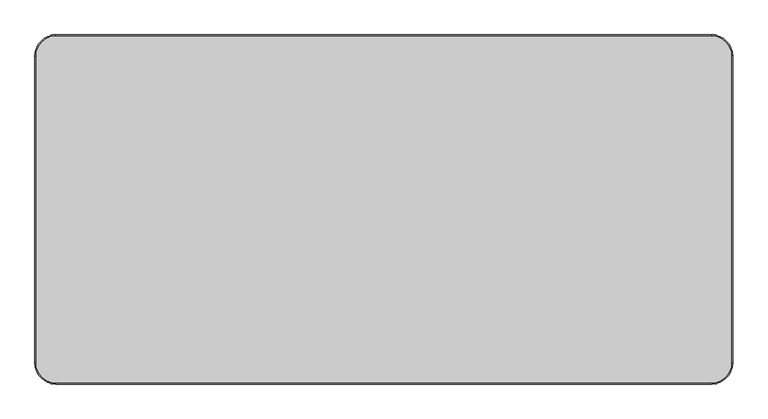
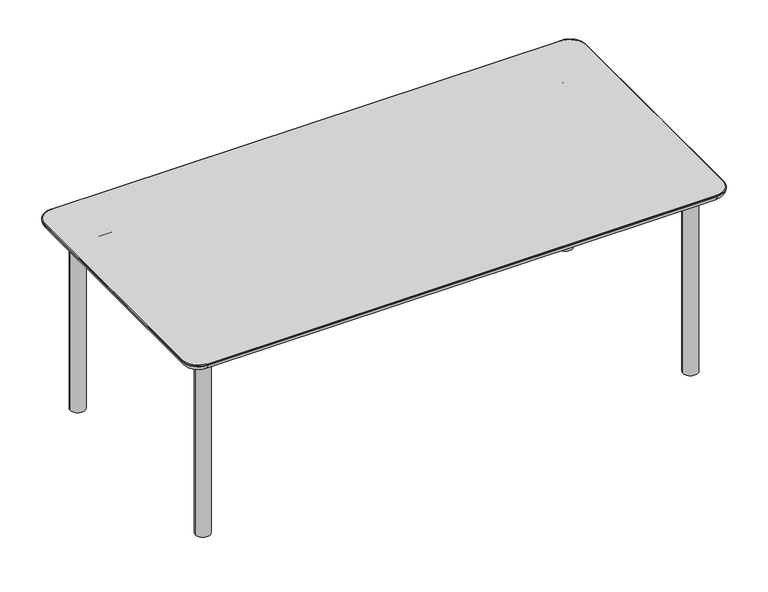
"""IFC4 building model written with IfcOpenShell, lengths in millimetres: furniture geometry, Fredericia - Plan Wood Table - 6681 : Fredericia - Plan Wood Table - 6681."""

import ifcopenshell
import ifcopenshell.guid

model = None  # the IFC model being written
_history = None  # IfcOwnerHistory: only IFC2X3 demands one
_inside = {}  # id of a spatial element -> (the spatial element, [elements in it])
_under = {}  # id of a project, library or spatial element -> (it, [spatial elements below it])
_declared = {}  # id of a project -> (the project, [libraries it declares])
_typed = {}  # id of a type object -> (the type object, [elements of that type])
_made_of = {}  # id of a material, layer set ... -> (it, [elements and type objects made of it])


def new_model(schema):
    """Start an empty IFC model of exactly this schema.

    Asked for "IFC4X3", IfcOpenShell would pick the latest addendum, in which some entities
    have other attributes; the version numbers below select the first issue.
    IFC2X3 requires an IfcOwnerHistory on every rooted entity: one is made here for all.
    """
    global model, _history
    if schema == "IFC4X3":
        model = ifcopenshell.file(schema_version=(4, 3, 0, 0))
    else:
        model = ifcopenshell.file(schema=schema)
    _inside.clear()
    _under.clear()
    _declared.clear()
    _typed.clear()
    _made_of.clear()
    _history = None
    if model.schema == "IFC2X3":
        org = make("IfcOrganization", Name="unknown")
        user = make(
            "IfcPersonAndOrganization",
            ThePerson=make("IfcPerson", FamilyName="unknown"),
            TheOrganization=org,
        )
        app = make(
            "IfcApplication",
            ApplicationDeveloper=org,
            Version="unknown",
            ApplicationFullName="unknown",
            ApplicationIdentifier="unknown",
        )
        _history = make(
            "IfcOwnerHistory",
            OwningUser=user,
            OwningApplication=app,
            ChangeAction="ADDED",
            CreationDate=0,
        )
    return model


def make(cls, **values):
    """One entity of the class cls with the attributes given. An attribute that is None is left unset."""
    return model.create_entity(
        cls, **{name: value for name, value in values.items() if value is not None}
    )


def rooted(cls, **values):
    """An entity with a GlobalId (a new one), such as an element, a storey or a relation."""
    return make(cls, GlobalId=ifcopenshell.guid.new(), OwnerHistory=_history, **values)


def si_unit(unit_type, name, prefix=None):
    """IfcSIUnit, for example si_unit("LENGTHUNIT", "METRE", prefix="MILLI")."""
    return make("IfcSIUnit", UnitType=unit_type, Prefix=prefix, Name=name)


def assignment(units):
    """IfcUnitAssignment: the units of a project."""
    return None if units is None else make("IfcUnitAssignment", Units=units)


def point(xyz):
    """IfcCartesianPoint."""
    return None if xyz is None else make("IfcCartesianPoint", Coordinates=xyz)


def direction(xyz):
    """IfcDirection."""
    return None if xyz is None else make("IfcDirection", DirectionRatios=xyz)


def frame(location, z_axis=None, x_axis=None):
    """IfcAxis2Placement3D, a coordinate frame: its origin and axes. An axis left out is left unset."""
    return make(
        "IfcAxis2Placement3D",
        Location=point(location),
        Axis=direction(z_axis),
        RefDirection=direction(x_axis),
    )


def frame_2d(location, x_axis=None):
    """IfcAxis2Placement2D, a coordinate frame in the plane: its origin and x axis."""
    return make(
        "IfcAxis2Placement2D", Location=point(location), RefDirection=direction(x_axis)
    )


def origin():
    """The frame at (0, 0, 0) with its axes left unset."""
    return frame((0.0, 0.0, 0.0))


def origin_with_axes():
    """The frame at (0, 0, 0) with the z axis (0, 0, 1) and the x axis (1, 0, 0) written out."""
    return frame((0.0, 0.0, 0.0), z_axis=(0.0, 0.0, 1.0), x_axis=(1.0, 0.0, 0.0))


def place(relative_to, where):
    """IfcLocalPlacement: puts the frame where relative to a parent placement (None: the world)."""
    return make(
        "IfcLocalPlacement", PlacementRelTo=relative_to, RelativePlacement=where
    )


def context(
    kind, dimensions, precision=None, world=None, true_north=None, identifier=None
):
    """IfcGeometricRepresentationContext, for example the 3D "Model" context."""
    return make(
        "IfcGeometricRepresentationContext",
        ContextIdentifier=identifier,
        ContextType=kind,
        CoordinateSpaceDimension=dimensions,
        Precision=precision,
        WorldCoordinateSystem=world,
        TrueNorth=true_north,
    )


def project(units=None, contexts=None):
    """IfcProject with its units and contexts."""
    return rooted(
        "IfcProject",
        Name="project",
        RepresentationContexts=contexts,
        UnitsInContext=assignment(units),
    )


def spatial(cls, under=None, at=None, **own):
    """A site, building, storey or space (cls), placed at a placement, below another one or the project."""
    s = rooted(cls, ObjectPlacement=at, **own)
    if under is not None:
        _under.setdefault(under.id(), (under, []))[1].append(s)
    return s


def polyline(points):
    """IfcPolyline through the points."""
    return make("IfcPolyline", Points=[point(p) for p in points])


def circle_curve(where, radius):
    """IfcCircle in the frame where."""
    return make("IfcCircle", Position=where, Radius=radius)


def ellipse_curve(where, semi_axis1, semi_axis2):
    """IfcEllipse in the frame where."""
    return make(
        "IfcEllipse", Position=where, SemiAxis1=semi_axis1, SemiAxis2=semi_axis2
    )


def trimmed(basis, trim1, trim2, sense, master):
    """IfcTrimmedCurve: the piece of a basis curve between two trims."""
    return make(
        "IfcTrimmedCurve",
        BasisCurve=basis,
        Trim1=trim1,
        Trim2=trim2,
        SenseAgreement=sense,
        MasterRepresentation=master,
    )


def segment(curve, same_sense, transition):
    """IfcCompositeCurveSegment."""
    return make(
        "IfcCompositeCurveSegment",
        Transition=transition,
        SameSense=same_sense,
        ParentCurve=curve,
    )


def composite_curve(segments, self_intersect=None):
    """IfcCompositeCurve: segments joined end to end."""
    return make("IfcCompositeCurve", Segments=segments, SelfIntersect=self_intersect)


def outline(outer, holes=None, kind="AREA"):
    """IfcArbitraryClosedProfileDef: a profile drawn as a closed curve; with holes, ...WithVoids."""
    if holes is None:
        return make("IfcArbitraryClosedProfileDef", ProfileType=kind, OuterCurve=outer)
    return make(
        "IfcArbitraryProfileDefWithVoids",
        ProfileType=kind,
        OuterCurve=outer,
        InnerCurves=holes,
    )


def extrude(swept, where, along, depth):
    """IfcExtrudedAreaSolid: the profile swept, set in the frame where, extruded along a direction by depth."""
    return make(
        "IfcExtrudedAreaSolid",
        SweptArea=swept,
        Position=where,
        ExtrudedDirection=direction(along),
        Depth=depth,
    )


def shape(context_of_items, identifier, shape_type, items):
    """IfcShapeRepresentation: the items that make up one representation, for example the "Body"."""
    return make(
        "IfcShapeRepresentation",
        ContextOfItems=context_of_items,
        RepresentationIdentifier=identifier,
        RepresentationType=shape_type,
        Items=items,
    )


def source(mapping_origin, context_of_items, identifier, shape_type, items):
    """IfcRepresentationMap: a shape defined once, which mapped items show again and again."""
    return make(
        "IfcRepresentationMap",
        MappingOrigin=mapping_origin,
        MappedRepresentation=shape(context_of_items, identifier, shape_type, items),
    )


def transform(
    local_origin,
    x_axis=None,
    y_axis=None,
    z_axis=None,
    scale=None,
    scale2=None,
    scale3=None,
    uniform=True,
):
    """IfcCartesianTransformationOperator3D, or its non-uniform kind. x_axis, y_axis, z_axis: its Axis1, 2, 3."""
    if uniform:
        return make(
            "IfcCartesianTransformationOperator3D",
            Axis1=direction(x_axis),
            Axis2=direction(y_axis),
            LocalOrigin=point(local_origin),
            Scale=scale,
            Axis3=direction(z_axis),
        )
    return make(
        "IfcCartesianTransformationOperator3DnonUniform",
        Axis1=direction(x_axis),
        Axis2=direction(y_axis),
        LocalOrigin=point(local_origin),
        Scale=scale,
        Axis3=direction(z_axis),
        Scale2=scale2,
        Scale3=scale3,
    )


def mapped(mapping_source, mapping_target):
    """IfcMappedItem: shows the shape of a source again, moved by a transform."""
    return make(
        "IfcMappedItem", MappingSource=mapping_source, MappingTarget=mapping_target
    )


def made_of(thing, what):
    """Note that an element or type object is made of a material, layer set ...; save() writes the relation."""
    if what is not None:
        _made_of.setdefault(what.id(), (what, []))[1].append(thing)
    return thing


def element(
    cls,
    number,
    at=None,
    inside=None,
    cuts=None,
    type_object=None,
    material=None,
    context=None,
    identifier="Body",
    shape_type=None,
    held_by="IfcProductDefinitionShape",
    body=None,
    shapes=None,
    **own,
):
    """One element of the class cls, such as IfcWall. Its Tag is "e" and its number.

    at: its placement. inside: the storey or other place that contains it. cuts: it is an
    opening in that element (IfcRelVoidsElement). A single representation is given by context,
    identifier, shape_type and body (its items); several are given by shapes. held_by: the class
    of the entity that holds the representations. save() writes the other relations.
    """
    e = rooted(cls, Tag="e%d" % number, ObjectPlacement=at, **own)
    if body is not None:
        shapes = [shape(context, identifier, shape_type, body)]
    if shapes is not None:
        e.Representation = make(held_by, Representations=shapes)
    if inside is not None:
        _inside.setdefault(inside.id(), (inside, []))[1].append(e)
    if cuts is not None:
        rooted(
            "IfcRelVoidsElement", RelatingBuildingElement=cuts, RelatedOpeningElement=e
        )
    if type_object is not None:
        _typed.setdefault(type_object.id(), (type_object, []))[1].append(e)
    return made_of(e, material)


def aggregate(whole, parts):
    """IfcRelAggregates: a whole, such as a stair, and the parts it consists of."""
    return rooted("IfcRelAggregates", RelatingObject=whole, RelatedObjects=parts)


def save(model, path):
    """Write the relations noted so far, then the file.

    IfcRelAggregates (storeys below a building ...), IfcRelContainedInSpatialStructure (elements
    in a storey), IfcRelDefinesByType, IfcRelAssociatesMaterial and IfcRelDeclares: one each for
    every whole, place, type object, material and project.
    """
    for whole, parts in _under.values():
        aggregate(whole, parts)
    for where, things in _inside.values():
        rooted(
            "IfcRelContainedInSpatialStructure",
            RelatedElements=things,
            RelatingStructure=where,
        )
    for kind, things in _typed.values():
        rooted("IfcRelDefinesByType", RelatedObjects=things, RelatingType=kind)
    for what, things in _made_of.values():
        rooted("IfcRelAssociatesMaterial", RelatedObjects=things, RelatingMaterial=what)
    for by, libraries in _declared.values():
        rooted("IfcRelDeclares", RelatingContext=by, RelatedDefinitions=libraries)
    model.write(path)


def plane_surface(at):
    """IfcPlane: the flat surface through the origin of the frame at, square to its z axis."""
    return make("IfcPlane", Position=at)


def cylinder_surface(at, radius):
    """IfcCylindricalSurface: all points at the distance radius from the z axis of the frame at."""
    return make("IfcCylindricalSurface", Position=at, Radius=radius)


def revolved_surface(curve, axis_point, axis_direction):
    """IfcSurfaceOfRevolution: the curve turned about the line through axis_point along axis_direction."""
    return make(
        "IfcSurfaceOfRevolution",
        SweptCurve=make("IfcArbitraryOpenProfileDef", ProfileType="CURVE", Curve=curve),
        AxisPosition=make("IfcAxis1Placement", Location=point(axis_point), Axis=direction(axis_direction)),
    )


def advanced_brep(points, edges, surfaces, faces):
    """IfcAdvancedBrep: a solid bounded by faces that lie on surfaces and meet in shared edges.

    An edge is (start, end): straight between two places in points (the first is 0);
    or (start, end, curve); or (start, end, curve, False) where it runs against its curve.
    A face is (place in surfaces, loops), or (place, loops, False) where it looks against
    its surface's normal. A loop lists edges by number (the first is 1), with a minus sign
    where the edge is run from its end to its start. The first loop is the outer one.
    """
    corners = [point(p) for p in points]
    vertices = [make("IfcVertexPoint", VertexGeometry=c) for c in corners]
    made = []
    for start, end, *more in edges:
        made.append(
            make(
                "IfcEdgeCurve",
                EdgeStart=vertices[start],
                EdgeEnd=vertices[end],
                EdgeGeometry=more[0] if more else make("IfcPolyline", Points=[corners[start], corners[end]]),
                SameSense=more[1] if len(more) > 1 else True,
            )
        )
    hull = []
    for where, loops, *sense in faces:
        bounds = []
        for j, loop in enumerate(loops):
            ring = [make("IfcOrientedEdge", EdgeElement=made[abs(k) - 1], Orientation=k > 0) for k in loop]
            bounds.append(
                make(
                    "IfcFaceOuterBound" if j == 0 else "IfcFaceBound",
                    Bound=make("IfcEdgeLoop", EdgeList=ring),
                    Orientation=True,
                )
            )
        hull.append(make("IfcAdvancedFace", Bounds=bounds, FaceSurface=surfaces[where], SameSense=sense[0] if sense else True))
    return make("IfcAdvancedBrep", Outer=make("IfcClosedShell", CfsFaces=hull))


def furniture_bf733eba(model_context):
    return source(origin(), model_context, "Body", "SolidModel", [
        advanced_brep(
        [(-912.5, -387.5, 662.0), (-900.5, -387.5, 650.0), (-889.5, -387.5, 650.0), (-887.5, -387.5, 652.0), (-887.5, -387.5, 710.0), (-912.5, -387.5, 710.0), (-912.5, 387.5, 662.0), (-912.5, 387.5, 710.0), (-887.5, 387.5, 710.0), (-887.5, 387.5, 652.0), (-889.5, 387.5, 650.0), (-900.5, 387.5, 650.0)],
        [
            (0, 1, circle_curve(frame((-900.5, -387.5, 662.0), z_axis=(0.0, -1.0, 0.0), x_axis=(-0.7071067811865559, 0.0, -0.7071067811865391)), 12.0)),
            (1, 2),
            (2, 3, circle_curve(frame((-889.5, -387.5, 652.0), z_axis=(0.0, -1.0, 0.0), x_axis=(0.7071067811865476, 0.0, -0.7071067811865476)), 2.0)),
            (3, 4),
            (4, 5),
            (5, 0),
            (6, 7),
            (7, 8),
            (8, 9),
            (9, 10, circle_curve(frame((-889.5, 387.5, 652.0), z_axis=(0.0, 1.0, 0.0), x_axis=(0.7071067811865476, 0.0, -0.7071067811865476)), 2.0)),
            (10, 11),
            (11, 6, circle_curve(frame((-900.5, 387.5, 662.0), z_axis=(0.0, 1.0, 0.0), x_axis=(-0.7071067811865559, 0.0, -0.7071067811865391)), 12.0)),
            (0, 6),
            (11, 1),
            (10, 2),
            (9, 3),
            (8, 4),
            (7, 5),
        ],
        [
            plane_surface(frame((-908.9852814, -387.5, 653.5147186), z_axis=(0.0, -1.0, 0.0), x_axis=(0.7071067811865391, 0.0, -0.7071067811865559))),
            plane_surface(frame((-908.9852814, 387.5, 653.5147186), z_axis=(0.0, 1.0, 0.0), x_axis=(-0.7071067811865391, 0.0, 0.7071067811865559))),
            cylinder_surface(frame((-900.5, 387.5, 662.0), z_axis=(0.0, -1.0, 0.0), x_axis=(-0.7071067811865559, 0.0, -0.7071067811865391)), 12.0),
            plane_surface(frame((-900.5, -387.5, 650.0), z_axis=(0.0, 0.0, -1.0), x_axis=(0.0, 1.0, 0.0))),
            cylinder_surface(frame((-889.5, 387.5, 652.0), z_axis=(0.0, -1.0000000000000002, 0.0), x_axis=(0.7071067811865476, 0.0, -0.7071067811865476)), 2.0),
            plane_surface(frame((-887.5, -387.5, 652.0), z_axis=(1.0, 0.0, 0.0), x_axis=(0.0, 1.0, 0.0))),
            plane_surface(frame((-887.5, -387.5, 710.0), z_axis=(0.0, 0.0, 1.0), x_axis=(0.0, 1.0, 0.0))),
            plane_surface(frame((-912.5, -387.5, 710.0), z_axis=(-1.0, 0.0, 0.0), x_axis=(0.0, 1.0, 0.0))),
        ],
        [
            (0, [[1, 2, 3, 4, 5, 6]]),
            (1, [[7, 8, 9, 10, 11, 12]]),
            (2, [[-1, 13, -12, 14]]),
            (3, [[-2, -14, -11, 15]]),
            (4, [[-3, -15, -10, 16]]),
            (5, [[-4, -16, -9, 17]]),
            (6, [[-5, -17, -8, 18]]),
            (7, [[-6, -18, -7, -13]]),
        ],
    ),
        advanced_brep(
        [(-405.0, -387.5, 655.0), (-403.0, -387.5, 653.0), (-382.0, -387.5, 653.0), (-380.0, -387.5, 655.0), (-380.0, -387.5, 710.0), (-405.0, -387.5, 710.0), (-405.0, 387.5, 655.0), (-405.0, 387.5, 710.0), (-380.0, 387.5, 710.0), (-380.0, 387.5, 655.0), (-382.0, 387.5, 653.0), (-403.0, 387.5, 653.0), (-380.0, 106.0, 710.0), (-380.0, 106.0, 704.0), (-380.0, 94.0, 704.0), (-380.0, 94.0, 710.0), (-380.0, -94.0, 710.0), (-380.0, -94.0, 704.0), (-380.0, -106.0, 704.0), (-380.0, -106.0, 710.0), (-405.0, -106.0, 710.0), (-405.0, 106.0, 710.0), (-405.0, 94.0, 710.0), (-405.0, -94.0, 710.0), (-405.0, -106.0, 704.0), (-405.0, -94.0, 704.0), (-405.0, 94.0, 704.0), (-405.0, 106.0, 704.0)],
        [
            (0, 1, circle_curve(frame((-403.0, -387.5, 655.0), z_axis=(0.0, -1.0, 0.0), x_axis=(-0.7071067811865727, 0.0, -0.7071067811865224)), 2.0)),
            (1, 2),
            (2, 3, circle_curve(frame((-382.0, -387.5, 655.0), z_axis=(0.0, -1.0, 0.0), x_axis=(0.7071067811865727, 0.0, -0.7071067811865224)), 2.0)),
            (3, 4),
            (4, 5),
            (5, 0),
            (6, 7),
            (7, 8),
            (8, 9),
            (9, 10, circle_curve(frame((-382.0, 387.5, 655.0), z_axis=(0.0, 1.0, 0.0), x_axis=(0.7071067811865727, 0.0, -0.7071067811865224)), 2.0)),
            (10, 11),
            (11, 6, circle_curve(frame((-403.0, 387.5, 655.0), z_axis=(0.0, 1.0, 0.0), x_axis=(-0.7071067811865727, 0.0, -0.7071067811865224)), 2.0)),
            (0, 6),
            (11, 1),
            (10, 2),
            (9, 3),
            (8, 12),
            (12, 13),
            (13, 14, circle_curve(frame((-380.0, 100.0, 704.0), z_axis=(-1.0, 0.0, 0.0), x_axis=(0.0, 0.0, -1.0)), 6.0)),
            (14, 15),
            (15, 16),
            (16, 17),
            (17, 18, circle_curve(frame((-380.0, -100.0, 704.0), z_axis=(-1.0, 0.0, 0.0), x_axis=(0.0, 0.0, -1.0)), 6.0)),
            (18, 19),
            (19, 4),
            (19, 20),
            (20, 5),
            (7, 21),
            (21, 12),
            (15, 22),
            (22, 23),
            (23, 16),
            (20, 24),
            (24, 25, circle_curve(frame((-405.0, -100.0, 704.0), z_axis=(1.0, 0.0, 0.0), x_axis=(0.0, 0.0, -1.0)), 6.0)),
            (25, 23),
            (22, 26),
            (26, 27, circle_curve(frame((-405.0, 100.0, 704.0), z_axis=(1.0, 0.0, 0.0), x_axis=(0.0, 0.0, -1.0)), 6.0)),
            (27, 21),
            (24, 18),
            (17, 25),
            (27, 13),
            (14, 26),
        ],
        [
            plane_surface(frame((-908.9852814, -387.5, 653.5147186), z_axis=(0.0, -1.0, 0.0), x_axis=(0.7071067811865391, 0.0, -0.7071067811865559))),
            plane_surface(frame((-908.9852814, 387.5, 653.5147186), z_axis=(0.0, 1.0, 0.0), x_axis=(-0.7071067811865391, 0.0, 0.7071067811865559))),
            cylinder_surface(frame((-403.0, 0.0, 655.0), z_axis=(0.0, -1.0, 0.0), x_axis=(-0.7071067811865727, 0.0, -0.7071067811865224)), 2.0),
            plane_surface(frame((-403.0, -387.5, 653.0), z_axis=(0.0, 0.0, -1.0), x_axis=(0.0, 1.0, 0.0))),
            cylinder_surface(frame((-382.0, 0.0, 655.0), z_axis=(0.0, -1.0, 0.0), x_axis=(0.7071067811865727, 0.0, -0.7071067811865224)), 2.0),
            plane_surface(frame((-380.0, -387.5, 655.0), z_axis=(1.0, 0.0, 0.0), x_axis=(0.0, 1.0, 0.0))),
            plane_surface(frame((-380.0, -387.5, 710.0), z_axis=(0.0, 0.0, 1.0), x_axis=(0.0, 1.0, 0.0))),
            plane_surface(frame((-405.0, -387.5, 710.0), z_axis=(-1.0, 0.0, 0.0), x_axis=(0.0, 1.0, 0.0))),
            revolved_surface(polyline([(-380.0, -100.0, 698.0), (-405.0, -100.0, 698.0)]), (-418.8703502, -100.0, 704.0), (1.0, 0.0, 0.0)),
            plane_surface(frame((532.5, -94.0, 704.0), z_axis=(0.0, -1.0, 0.0), x_axis=(-1.0, 0.0, 0.0))),
            plane_surface(frame((532.5, -106.0, 710.0), z_axis=(0.0, 1.0, 0.0), x_axis=(-1.0, 0.0, 0.0))),
            plane_surface(frame((532.5, 106.0, 704.0), z_axis=(0.0, -1.0, 0.0), x_axis=(-1.0, 0.0, 0.0))),
            plane_surface(frame((532.5, 94.0, 710.0), z_axis=(0.0, 1.0, 0.0), x_axis=(-1.0, 0.0, 0.0))),
            revolved_surface(polyline([(-380.0, 100.0, 698.0), (-405.0, 100.0, 698.0)]), (0.0, 100.0, 704.0), (1.0, 0.0, 0.0)),
        ],
        [
            (0, [[1, 2, 3, 4, 5, 6]]),
            (1, [[7, 8, 9, 10, 11, 12]]),
            (2, [[-1, 13, -12, 14]]),
            (3, [[-2, -14, -11, 15]]),
            (4, [[-3, -15, -10, 16]]),
            (5, [[-4, -16, -9, 17, 18, 19, 20, 21, 22, 23, 24, 25]]),
            (6, [[-5, -25, 26, 27]]),
            (6, [[-8, 28, 29, -17]]),
            (6, [[-21, 30, 31, 32]]),
            (7, [[-6, -27, 33, 34, 35, -31, 36, 37, 38, -28, -7, -13]]),
            (8, [[39, -23, 40, -34]]),
            (9, [[-40, -22, -32, -35]]),
            (10, [[-39, -33, -26, -24]]),
            (11, [[41, -18, -29, -38]]),
            (12, [[42, -36, -30, -20]]),
            (13, [[-41, -37, -42, -19]]),
        ],
    ),
        advanced_brep(
        [(912.5, -387.5, 662.0), (912.5, -387.5, 710.0), (887.5, -387.5, 710.0), (887.5, -387.5, 652.0), (889.5, -387.5, 650.0), (900.5, -387.5, 650.0), (912.5, 387.5, 662.0), (900.5, 387.5, 650.0), (889.5, 387.5, 650.0), (887.5, 387.5, 652.0), (887.5, 387.5, 710.0), (912.5, 387.5, 710.0)],
        [
            (0, 1),
            (1, 2),
            (2, 3),
            (3, 4, circle_curve(frame((889.5, -387.5, 652.0), z_axis=(0.0, -1.0, 0.0), x_axis=(-0.7071067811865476, 0.0, -0.7071067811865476)), 2.0)),
            (4, 5),
            (5, 0, circle_curve(frame((900.5, -387.5, 662.0), z_axis=(0.0, -1.0, 0.0), x_axis=(0.7071067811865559, 0.0, -0.7071067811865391)), 12.0)),
            (6, 7, circle_curve(frame((900.5, 387.5, 662.0), z_axis=(0.0, 1.0, 0.0), x_axis=(0.7071067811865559, 0.0, -0.7071067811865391)), 12.0)),
            (7, 8),
            (8, 9, circle_curve(frame((889.5, 387.5, 652.0), z_axis=(0.0, 1.0, 0.0), x_axis=(-0.7071067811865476, 0.0, -0.7071067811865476)), 2.0)),
            (9, 10),
            (10, 11),
            (11, 6),
            (0, 6),
            (11, 1),
            (10, 2),
            (9, 3),
            (8, 4),
            (7, 5),
        ],
        [
            plane_surface(frame((-908.9852814, -387.5, 653.5147186), z_axis=(0.0, -1.0, 0.0), x_axis=(0.7071067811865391, 0.0, -0.7071067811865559))),
            plane_surface(frame((-908.9852814, 387.5, 653.5147186), z_axis=(0.0, 1.0, 0.0), x_axis=(-0.7071067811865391, 0.0, 0.7071067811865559))),
            plane_surface(frame((912.5, -387.5, 662.0), z_axis=(1.0, 0.0, 0.0), x_axis=(0.0, 1.0, 0.0))),
            plane_surface(frame((912.5, -387.5, 710.0), z_axis=(0.0, 0.0, 1.0), x_axis=(0.0, 1.0, 0.0))),
            plane_surface(frame((887.5, -387.5, 710.0), z_axis=(-1.0, 0.0, 0.0), x_axis=(0.0, 1.0, 0.0))),
            cylinder_surface(frame((889.5, 0.0, 652.0), z_axis=(0.0, -1.0000000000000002, 0.0), x_axis=(-0.7071067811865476, 0.0, -0.7071067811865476)), 2.0),
            plane_surface(frame((889.5, -387.5, 650.0), z_axis=(0.0, 0.0, -1.0), x_axis=(0.0, 1.0, 0.0))),
            cylinder_surface(frame((900.5, 0.0, 662.0), z_axis=(0.0, -1.0, 0.0), x_axis=(0.7071067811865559, 0.0, -0.7071067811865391)), 12.0),
        ],
        [
            (0, [[1, 2, 3, 4, 5, 6]]),
            (1, [[7, 8, 9, 10, 11, 12]]),
            (2, [[-1, 13, -12, 14]]),
            (3, [[-2, -14, -11, 15]]),
            (4, [[-3, -15, -10, 16]]),
            (5, [[-4, -16, -9, 17]]),
            (6, [[-5, -17, -8, 18]]),
            (7, [[-6, -18, -7, -13]]),
        ],
    ),
        advanced_brep(
        [(405.0, -387.5, 655.0), (405.0, -387.5, 710.0), (380.0, -387.5, 710.0), (380.0, -387.5, 655.0), (382.0, -387.5, 653.0), (403.0, -387.5, 653.0), (405.0, 387.5, 655.0), (403.0, 387.5, 653.0), (382.0, 387.5, 653.0), (380.0, 387.5, 655.0), (380.0, 387.5, 710.0), (405.0, 387.5, 710.0), (405.0, 106.0, 710.0), (405.0, 106.0, 704.0), (405.0, 94.0, 704.0), (405.0, 94.0, 710.0), (405.0, -94.0, 710.0), (405.0, -94.0, 704.0), (405.0, -106.0, 704.0), (405.0, -106.0, 710.0), (380.0, -106.0, 710.0), (380.0, 106.0, 710.0), (380.0, 94.0, 710.0), (380.0, -94.0, 710.0), (380.0, -106.0, 704.0), (380.0, -94.0, 704.0), (380.0, 94.0, 704.0), (380.0, 106.0, 704.0)],
        [
            (0, 1),
            (1, 2),
            (2, 3),
            (3, 4, circle_curve(frame((382.0, -387.5, 655.0), z_axis=(0.0, -1.0, 0.0), x_axis=(-0.7071067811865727, 0.0, -0.7071067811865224)), 2.0)),
            (4, 5),
            (5, 0, circle_curve(frame((403.0, -387.5, 655.0), z_axis=(0.0, -1.0, 0.0), x_axis=(0.7071067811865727, 0.0, -0.7071067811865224)), 2.0)),
            (6, 7, circle_curve(frame((403.0, 387.5, 655.0), z_axis=(0.0, 1.0, 0.0), x_axis=(0.7071067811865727, 0.0, -0.7071067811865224)), 2.0)),
            (7, 8),
            (8, 9, circle_curve(frame((382.0, 387.5, 655.0), z_axis=(0.0, 1.0, 0.0), x_axis=(-0.7071067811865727, 0.0, -0.7071067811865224)), 2.0)),
            (9, 10),
            (10, 11),
            (11, 6),
            (0, 6),
            (11, 12),
            (12, 13),
            (13, 14, circle_curve(frame((405.0, 100.0, 704.0), z_axis=(-1.0, 0.0, 0.0), x_axis=(0.0, 0.0, -1.0)), 6.0)),
            (14, 15),
            (15, 16),
            (16, 17),
            (17, 18, circle_curve(frame((405.0, -100.0, 704.0), z_axis=(-1.0, 0.0, 0.0), x_axis=(0.0, 0.0, -1.0)), 6.0)),
            (18, 19),
            (19, 1),
            (19, 20),
            (20, 2),
            (10, 21),
            (21, 12),
            (15, 22),
            (22, 23),
            (23, 16),
            (20, 24),
            (24, 25, circle_curve(frame((380.0, -100.0, 704.0), z_axis=(1.0, 0.0, 0.0), x_axis=(0.0, 0.0, -1.0)), 6.0)),
            (25, 23),
            (22, 26),
            (26, 27, circle_curve(frame((380.0, 100.0, 704.0), z_axis=(1.0, 0.0, 0.0), x_axis=(0.0, 0.0, -1.0)), 6.0)),
            (27, 21),
            (9, 3),
            (8, 4),
            (7, 5),
            (24, 18),
            (17, 25),
            (27, 13),
            (14, 26),
        ],
        [
            plane_surface(frame((-908.9852814, -387.5, 653.5147186), z_axis=(0.0, -1.0, 0.0), x_axis=(0.7071067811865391, 0.0, -0.7071067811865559))),
            plane_surface(frame((-908.9852814, 387.5, 653.5147186), z_axis=(0.0, 1.0, 0.0), x_axis=(-0.7071067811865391, 0.0, 0.7071067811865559))),
            plane_surface(frame((405.0, -387.5, 655.0), z_axis=(1.0, 0.0, 0.0), x_axis=(0.0, 1.0, 0.0))),
            plane_surface(frame((405.0, -387.5, 710.0), z_axis=(0.0, 0.0, 1.0), x_axis=(0.0, 1.0, 0.0))),
            plane_surface(frame((380.0, -387.5, 710.0), z_axis=(-1.0, 0.0, 0.0), x_axis=(0.0, 1.0, 0.0))),
            cylinder_surface(frame((382.0, 0.0, 655.0), z_axis=(0.0, -1.0, 0.0), x_axis=(-0.7071067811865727, 0.0, -0.7071067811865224)), 2.0),
            plane_surface(frame((382.0, -387.5, 653.0), z_axis=(0.0, 0.0, -1.0), x_axis=(0.0, 1.0, 0.0))),
            cylinder_surface(frame((403.0, 0.0, 655.0), z_axis=(0.0, -1.0, 0.0), x_axis=(0.7071067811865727, 0.0, -0.7071067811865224)), 2.0),
            revolved_surface(polyline([(405.00000000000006, -100.0, 698.0), (380.00000000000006, -100.0, 698.0)]), (-418.8703502, -100.0, 704.0), (1.0, 0.0, 0.0)),
            plane_surface(frame((532.5, -94.0, 704.0), z_axis=(0.0, -1.0, 0.0), x_axis=(-1.0, 0.0, 0.0))),
            plane_surface(frame((532.5, -106.0, 710.0), z_axis=(0.0, 1.0, 0.0), x_axis=(-1.0, 0.0, 0.0))),
            plane_surface(frame((532.5, 106.0, 704.0), z_axis=(0.0, -1.0, 0.0), x_axis=(-1.0, 0.0, 0.0))),
            plane_surface(frame((532.5, 94.0, 710.0), z_axis=(0.0, 1.0, 0.0), x_axis=(-1.0, 0.0, 0.0))),
            revolved_surface(polyline([(405.0, 100.0, 698.0), (380.0, 100.0, 698.0)]), (0.0, 100.0, 704.0), (1.0, 0.0, 0.0)),
        ],
        [
            (0, [[1, 2, 3, 4, 5, 6]]),
            (1, [[7, 8, 9, 10, 11, 12]]),
            (2, [[-1, 13, -12, 14, 15, 16, 17, 18, 19, 20, 21, 22]]),
            (3, [[-2, -22, 23, 24]]),
            (3, [[-11, 25, 26, -14]]),
            (3, [[-18, 27, 28, 29]]),
            (4, [[-3, -24, 30, 31, 32, -28, 33, 34, 35, -25, -10, 36]]),
            (5, [[-4, -36, -9, 37]]),
            (6, [[-5, -37, -8, 38]]),
            (7, [[-6, -38, -7, -13]]),
            (8, [[39, -20, 40, -31]]),
            (9, [[-40, -19, -29, -32]]),
            (10, [[-39, -30, -23, -21]]),
            (11, [[41, -15, -26, -35]]),
            (12, [[42, -33, -27, -17]]),
            (13, [[-41, -34, -42, -16]]),
        ],
    ),
        extrude(outline(composite_curve([segment(polyline([(412.5, 710.0), (412.5, 662.0)]), True, "CONTINUOUS"), segment(trimmed(circle_curve(frame_2d((400.5, 662.0)), 12.0), [point((412.5, 662.0))], [point((400.5, 650.0))], False, "CARTESIAN"), True, "CONTINUOUS"), segment(polyline([(400.5, 650.0), (389.5, 650.0)]), True, "CONTINUOUS"), segment(trimmed(circle_curve(frame_2d((389.5, 652.0)), 2.0), [point((389.5, 650.0))], [point((387.5, 652.0))], False, "CARTESIAN"), True, "CONTINUOUS"), segment(polyline([(387.5, 652.0), (387.5, 710.0), (412.5, 710.0)]), True, "CONTINUOUS")], self_intersect=False)), frame((-887.5, 0.0, 0.0), z_axis=(1.0, 0.0, 0.0), x_axis=(0.0, 1.0, 0.0)), (0.0, 0.0, 1.0), 1775.0),
        extrude(outline(composite_curve([segment(polyline([(-412.5, 710.0), (-387.5, 710.0), (-387.5, 652.0)]), True, "CONTINUOUS"), segment(trimmed(circle_curve(frame_2d((-389.5, 652.0)), 2.0), [point((-387.5, 652.0))], [point((-389.5, 650.0))], False, "CARTESIAN"), True, "CONTINUOUS"), segment(polyline([(-389.5, 650.0), (-400.5, 650.0)]), True, "CONTINUOUS"), segment(trimmed(circle_curve(frame_2d((-400.5, 662.0)), 12.0), [point((-400.5, 650.0))], [point((-412.5, 662.0))], False, "CARTESIAN"), True, "CONTINUOUS"), segment(polyline([(-412.5, 662.0), (-412.5, 710.0)]), True, "CONTINUOUS")], self_intersect=False)), frame((-887.5, 0.0, 0.0), z_axis=(1.0, 0.0, 0.0), x_axis=(0.0, 1.0, 0.0)), (0.0, 0.0, 1.0), 1775.0),
        advanced_brep(
        [(-940.0, -500.0, 728.0064935), (-1000.0, -440.0, 728.0064935), (-1000.0, -440.0, 726.0), (-940.0, -500.0, 726.0), (-940.0, -498.0, 730.0064935), (-998.0, -440.0, 730.0064935), (-992.0, -440.0, 710.0), (-940.0, -492.0, 710.0), (940.0, -500.0, 726.0), (940.0, -500.0, 728.0064935), (940.0, -498.0, 730.0064935), (940.0, -492.0, 710.0), (1000.0, -440.0, 726.0), (1000.0, -440.0, 728.0064935), (998.0, -440.0, 730.0064935), (992.0, -440.0, 710.0), (1000.0, 440.0, 726.0), (1000.0, 440.0, 728.0064935), (998.0, 440.0, 730.0064935), (992.0, 440.0, 710.0), (940.0, 500.0, 726.0), (940.0, 500.0, 728.0064935), (940.0, 498.0, 730.0064935), (940.0, 492.0, 710.0), (-940.0, 500.0, 726.0), (-940.0, 500.0, 728.0064935), (-940.0, 498.0, 730.0064935), (-940.0, 492.0, 710.0), (-1000.0, 440.0, 726.0), (-1000.0, 440.0, 728.0064935), (-998.0, 440.0, 730.0064935), (-992.0, 440.0, 710.0)],
        [
            (0, 1, circle_curve(frame((-940.0, -440.0, 728.0064935), z_axis=(0.0, 0.0, -1.0), x_axis=(-1.0, 0.0, 0.0)), 60.0)),
            (1, 2),
            (2, 3, circle_curve(frame((-940.0, -440.0, 726.0), z_axis=(0.0, 0.0, 1.0), x_axis=(-1.0, 0.0, 0.0)), 60.0)),
            (3, 0),
            (0, 4, circle_curve(frame((-940.0, -498.0, 728.0064935), z_axis=(-1.0, 0.0, 0.0), x_axis=(0.0, 1.0, 0.0)), 2.0)),
            (4, 5, circle_curve(frame((-940.0, -440.0, 730.0064935), z_axis=(0.0, 0.0, -1.0), x_axis=(-1.0, 0.0, 0.0)), 58.0)),
            (5, 1, circle_curve(frame((-998.0, -440.0, 728.0064935), z_axis=(0.0, -1.0, 0.0), x_axis=(1.0, 0.0, 0.0)), 2.0)),
            (2, 6, circle_curve(frame((-980.0, -440.0, 726.0), z_axis=(0.0, -1.0, 0.0), x_axis=(1.0, 0.0, 0.0)), 20.0)),
            (6, 7, circle_curve(frame((-940.0, -440.0, 710.0), z_axis=(0.0, 0.0, 1.0), x_axis=(-1.0, 0.0, 0.0)), 52.0)),
            (7, 3, circle_curve(frame((-940.0, -480.0, 726.0), z_axis=(-1.0, 0.0, 0.0), x_axis=(0.0, 1.0, 0.0)), 20.0)),
            (3, 8),
            (8, 9),
            (9, 0),
            (9, 10, circle_curve(frame((940.0, -498.0, 728.0064935), z_axis=(-1.0, 0.0, 0.0), x_axis=(0.0, 1.0, 0.0)), 2.0)),
            (10, 4),
            (7, 11),
            (11, 8, circle_curve(frame((940.0, -480.0, 726.0), z_axis=(-1.0, 0.0, 0.0), x_axis=(0.0, 1.0, 0.0)), 20.0)),
            (8, 12, circle_curve(frame((940.0, -440.0, 726.0), z_axis=(0.0, 0.0, 1.0), x_axis=(0.0, -1.0, 0.0)), 60.0)),
            (12, 13),
            (13, 9, circle_curve(frame((940.0, -440.0, 728.0064935), z_axis=(0.0, 0.0, -1.0), x_axis=(0.0, -1.0, 0.0)), 60.0)),
            (13, 14, circle_curve(frame((998.0, -440.0, 728.0064935), z_axis=(0.0, -1.0, 0.0), x_axis=(-1.0, 0.0, 0.0)), 2.0)),
            (14, 10, circle_curve(frame((940.0, -440.0, 730.0064935), z_axis=(0.0, 0.0, -1.0), x_axis=(0.0, -1.0, 0.0)), 58.0)),
            (11, 15, circle_curve(frame((940.0, -440.0, 710.0), z_axis=(0.0, 0.0, 1.0), x_axis=(0.0, -1.0, 0.0)), 52.0)),
            (15, 12, circle_curve(frame((980.0, -440.0, 726.0), z_axis=(0.0, -1.0, 0.0), x_axis=(-1.0, 0.0, 0.0)), 20.0)),
            (12, 16),
            (16, 17),
            (17, 13),
            (17, 18, circle_curve(frame((998.0, 440.0, 728.0064935), z_axis=(0.0, -1.0, 0.0), x_axis=(-1.0, 0.0, 0.0)), 2.0)),
            (18, 14),
            (15, 19),
            (19, 16, circle_curve(frame((980.0, 440.0, 726.0), z_axis=(0.0, -1.0, 0.0), x_axis=(-1.0, 0.0, 0.0)), 20.0)),
            (16, 20, circle_curve(frame((940.0, 440.0, 726.0), z_axis=(0.0, 0.0, 1.0), x_axis=(1.0, 0.0, 0.0)), 60.0)),
            (20, 21),
            (21, 17, circle_curve(frame((940.0, 440.0, 728.0064935), z_axis=(0.0, 0.0, -1.0), x_axis=(1.0, 0.0, 0.0)), 60.0)),
            (21, 22, circle_curve(frame((940.0, 498.0, 728.0064935), z_axis=(1.0, 0.0, 0.0), x_axis=(0.0, -1.0, 0.0)), 2.0)),
            (22, 18, circle_curve(frame((940.0, 440.0, 730.0064935), z_axis=(0.0, 0.0, -1.0), x_axis=(1.0, 0.0, 0.0)), 58.0)),
            (19, 23, circle_curve(frame((940.0, 440.0, 710.0), z_axis=(0.0, 0.0, 1.0), x_axis=(1.0, 0.0, 0.0)), 52.0)),
            (23, 20, circle_curve(frame((940.0, 480.0, 726.0), z_axis=(1.0, 0.0, 0.0), x_axis=(0.0, -1.0, 0.0)), 20.0)),
            (20, 24),
            (24, 25),
            (25, 21),
            (25, 26, circle_curve(frame((-940.0, 498.0, 728.0064935), z_axis=(1.0, 0.0, 0.0), x_axis=(0.0, -1.0, 0.0)), 2.0)),
            (26, 22),
            (23, 27),
            (27, 24, circle_curve(frame((-940.0, 480.0, 726.0), z_axis=(1.0, 0.0, 0.0), x_axis=(0.0, -1.0, 0.0)), 20.0)),
            (24, 28, circle_curve(frame((-940.0, 440.0, 726.0), z_axis=(0.0, 0.0, 1.0), x_axis=(0.0, 1.0, 0.0)), 60.0)),
            (28, 29),
            (29, 25, circle_curve(frame((-940.0, 440.0, 728.0064935), z_axis=(0.0, 0.0, -1.0), x_axis=(0.0, 1.0, 0.0)), 60.0)),
            (29, 30, circle_curve(frame((-998.0, 440.0, 728.0064935), z_axis=(0.0, 1.0, 0.0), x_axis=(1.0, 0.0, 0.0)), 2.0)),
            (30, 26, circle_curve(frame((-940.0, 440.0, 730.0064935), z_axis=(0.0, 0.0, -1.0), x_axis=(0.0, 1.0, 0.0)), 58.0)),
            (27, 31, circle_curve(frame((-940.0, 440.0, 710.0), z_axis=(0.0, 0.0, 1.0), x_axis=(0.0, 1.0, 0.0)), 52.0)),
            (31, 28, circle_curve(frame((-980.0, 440.0, 726.0), z_axis=(0.0, 1.0, 0.0), x_axis=(1.0, 0.0, 0.0)), 20.0)),
            (1, 29),
            (28, 2),
            (5, 30),
            (6, 31),
        ],
        [
            cylinder_surface(frame((-940.0, -440.0, 0.0), z_axis=(0.0, 0.0, 1.0), x_axis=(-1.0, 0.0, 0.0)), 60.0),
            revolved_surface(trimmed(ellipse_curve(frame((-998.0, -440.0, 728.0064935), z_axis=(0.0, 1.0, 0.0), x_axis=(1.0, 0.0, 0.0)), 2.0, 2.0), [point((-1000.0, -440.0, 728.0064935))], [point((-998.0, -440.0, 730.0064935))], True, "CARTESIAN"), (-940.0, -440.0, 0.0), (0.0, 0.0, 1.0)),
            revolved_surface(trimmed(ellipse_curve(frame((-980.0, -440.0, 726.0), z_axis=(0.0, 1.0, 0.0), x_axis=(1.0, 0.0, 0.0)), 20.0, 20.0), [point((-992.0, -440.0, 710.0))], [point((-1000.0, -440.0, 726.0))], True, "CARTESIAN"), (-940.0, -440.0, 0.0), (0.0, 0.0, 1.0)),
            plane_surface(frame((-940.0, -500.0, 726.0), z_axis=(0.0, -1.0, 0.0), x_axis=(1.0, 0.0, 0.0))),
            cylinder_surface(frame((-940.0, -498.0, 728.0064935), z_axis=(-1.0, 0.0, 0.0), x_axis=(0.0, 1.0, 0.0)), 2.0),
            cylinder_surface(frame((-940.0, -480.0, 726.0), z_axis=(-1.0, 0.0, 0.0), x_axis=(0.0, 1.0, 0.0)), 20.0),
            cylinder_surface(frame((940.0, -440.0, 0.0), z_axis=(0.0, 0.0, 1.0), x_axis=(0.0, -1.0, 0.0)), 60.0),
            revolved_surface(trimmed(ellipse_curve(frame((940.0, -498.0, 728.0064935), z_axis=(-1.0, 0.0, 0.0), x_axis=(0.0, 1.0, 0.0)), 2.0, 2.0), [point((940.0, -500.0, 728.0064935))], [point((940.0, -498.0, 730.0064935))], True, "CARTESIAN"), (940.0, -440.0, 0.0), (0.0, 0.0, 1.0)),
            revolved_surface(trimmed(ellipse_curve(frame((940.0, -480.0, 726.0), z_axis=(-1.0, 0.0, 0.0), x_axis=(0.0, 1.0, 0.0)), 20.0, 20.0), [point((940.0, -492.0, 710.0))], [point((940.0, -500.0, 726.0))], True, "CARTESIAN"), (940.0, -440.0, 0.0), (0.0, 0.0, 1.0)),
            plane_surface(frame((1000.0, -440.0, 726.0), z_axis=(1.0, 0.0, 0.0), x_axis=(0.0, 1.0, 0.0))),
            cylinder_surface(frame((998.0, -440.0, 728.0064935), z_axis=(0.0, -1.0, 0.0), x_axis=(-1.0, 0.0, 0.0)), 2.0),
            cylinder_surface(frame((980.0, -440.0, 726.0), z_axis=(0.0, -1.0, 0.0), x_axis=(-1.0, 0.0, 0.0)), 20.0),
            cylinder_surface(frame((940.0, 440.0, 0.0), z_axis=(0.0, 0.0, 1.0), x_axis=(1.0, 0.0, 0.0)), 60.0),
            revolved_surface(trimmed(ellipse_curve(frame((998.0, 440.0, 728.0064935), z_axis=(0.0, -1.0, 0.0), x_axis=(-1.0, 0.0, 0.0)), 2.0, 2.0), [point((1000.0, 440.0, 728.0064935))], [point((998.0, 440.0, 730.0064935))], True, "CARTESIAN"), (940.0, 440.0, 0.0), (0.0, 0.0, 1.0)),
            revolved_surface(trimmed(ellipse_curve(frame((980.0, 440.0, 726.0), z_axis=(0.0, -1.0, 0.0), x_axis=(-1.0, 0.0, 0.0)), 20.0, 20.0), [point((992.0, 440.0, 710.0))], [point((1000.0, 440.0, 726.0))], True, "CARTESIAN"), (940.0, 440.0, 0.0), (0.0, 0.0, 1.0)),
            plane_surface(frame((940.0, 500.0, 726.0), z_axis=(0.0, 1.0, 0.0), x_axis=(-1.0, 0.0, 0.0))),
            cylinder_surface(frame((940.0, 498.0, 728.0064935), z_axis=(1.0, 0.0, 0.0), x_axis=(0.0, -1.0, 0.0)), 2.0),
            cylinder_surface(frame((940.0, 480.0, 726.0), z_axis=(1.0, 0.0, 0.0), x_axis=(0.0, -1.0, 0.0)), 20.0),
            cylinder_surface(frame((-940.0, 440.0, 0.0), z_axis=(0.0, 0.0, 1.0), x_axis=(0.0, 1.0, 0.0)), 60.0),
            revolved_surface(trimmed(ellipse_curve(frame((-940.0, 498.0, 728.0064935), z_axis=(1.0, 0.0, 0.0), x_axis=(0.0, -1.0, 0.0)), 2.0, 2.0), [point((-940.0, 500.0, 728.0064935))], [point((-940.0, 498.0, 730.0064935))], True, "CARTESIAN"), (-940.0, 440.0, 0.0), (0.0, 0.0, 1.0)),
            revolved_surface(trimmed(ellipse_curve(frame((-940.0, 480.0, 726.0), z_axis=(1.0, 0.0, 0.0), x_axis=(0.0, -1.0, 0.0)), 20.0, 20.0), [point((-940.0, 492.0, 710.0))], [point((-940.0, 500.0, 726.0))], True, "CARTESIAN"), (-940.0, 440.0, 0.0), (0.0, 0.0, 1.0)),
            plane_surface(frame((-1000.0, 440.0, 726.0), z_axis=(-1.0, 0.0, 0.0), x_axis=(0.0, -1.0, 0.0))),
            cylinder_surface(frame((-998.0, 440.0, 728.0064935), z_axis=(0.0, 1.0, 0.0), x_axis=(1.0, 0.0, 0.0)), 2.0),
            plane_surface(frame((-998.0, 440.0, 730.0064935), z_axis=(0.0, 0.0, 1.0), x_axis=(0.0, -1.0, 0.0))),
            plane_surface(frame((-988.22112, 440.0, 710.0), z_axis=(0.0, 0.0, -1.0), x_axis=(0.0, -1.0, 0.0))),
            cylinder_surface(frame((-980.0, 440.0, 726.0), z_axis=(0.0, 1.0, 0.0), x_axis=(1.0, 0.0, 0.0)), 20.0),
        ],
        [
            (0, [[1, 2, 3, 4]]),
            (1, [[-1, 5, 6, 7]]),
            (2, [[-3, 8, 9, 10]]),
            (3, [[-4, 11, 12, 13]]),
            (4, [[-5, -13, 14, 15]]),
            (5, [[-10, 16, 17, -11]]),
            (6, [[-12, 18, 19, 20]]),
            (7, [[-14, -20, 21, 22]]),
            (8, [[-17, 23, 24, -18]]),
            (9, [[-19, 25, 26, 27]]),
            (10, [[-21, -27, 28, 29]]),
            (11, [[-24, 30, 31, -25]]),
            (12, [[-26, 32, 33, 34]]),
            (13, [[-28, -34, 35, 36]]),
            (14, [[-31, 37, 38, -32]]),
            (15, [[-33, 39, 40, 41]]),
            (16, [[-35, -41, 42, 43]]),
            (17, [[-38, 44, 45, -39]]),
            (18, [[-40, 46, 47, 48]]),
            (19, [[-42, -48, 49, 50]]),
            (20, [[-45, 51, 52, -46]]),
            (21, [[-2, 53, -47, 54]]),
            (22, [[-7, 55, -49, -53]]),
            (23, [[-6, -15, -22, -29, -36, -43, -50, -55]]),
            (24, [[-9, 56, -51, -44, -37, -30, -23, -16]]),
            (25, [[-8, -54, -52, -56]]),
        ],
    ),
        extrude(outline(polyline([(835.881205, -387.5), (787.0908371, -387.5), (787.0908371, -385.5), (835.0527778, -385.5), (885.5, -335.0527778), (885.5, -287.0908371), (887.5, -287.0908371), (887.5, -335.881205), (835.881205, -387.5)])), frame((0.0, 0.0, 650.0), z_axis=(0.0, 0.0, 1.0), x_axis=(1.0, 0.0, 0.0)), (0.0, 0.0, 1.0), 60.0),
        extrude(outline(polyline([(835.881205, 387.5), (887.5, 335.881205), (887.5, 287.0908371), (885.5, 287.0908371), (885.5, 335.0527778), (835.0527778, 385.5), (787.0908371, 385.5), (787.0908371, 387.5), (835.881205, 387.5)])), frame((0.0, 0.0, 650.0), z_axis=(0.0, 0.0, 1.0), x_axis=(1.0, 0.0, 0.0)), (0.0, 0.0, 1.0), 60.0),
        extrude(outline(polyline([(-835.881205, -387.5), (-887.5, -335.881205), (-887.5, -287.0908371), (-885.5, -287.0908371), (-885.5, -335.0527778), (-835.0527778, -385.5), (-787.0908371, -385.5), (-787.0908371, -387.5), (-835.881205, -387.5)])), frame((0.0, 0.0, 650.0), z_axis=(0.0, 0.0, 1.0), x_axis=(1.0, 0.0, 0.0)), (0.0, 0.0, 1.0), 60.0),
        extrude(outline(polyline([(-835.881205, 387.5), (-787.0908371, 387.5), (-787.0908371, 385.5), (-835.0527778, 385.5), (-885.5, 335.0527778), (-885.5, 287.0908371), (-887.5, 287.0908371), (-887.5, 335.881205), (-835.881205, 387.5)])), frame((0.0, 0.0, 650.0), z_axis=(0.0, 0.0, 1.0), x_axis=(1.0, 0.0, 0.0)), (0.0, 0.0, 1.0), 60.0),
        extrude(outline(composite_curve([segment(trimmed(circle_curve(frame_2d((900.0585523, -400.0088745)), 27.5), [point((927.5585523, -400.0088745))], [point((872.5585523, -400.0088745))], False, "CARTESIAN"), True, "CONTINUOUS"), segment(trimmed(circle_curve(frame_2d((900.0585523, -400.0088745)), 27.5), [point((872.5585523, -400.0088745))], [point((927.5585523, -400.0088745))], False, "CARTESIAN"), True, "CONTINUOUS")], self_intersect=False)), origin_with_axes(), (0.0, 0.0, 1.0), 710.0),
        extrude(outline(composite_curve([segment(trimmed(circle_curve(frame_2d((900.0585523, 400.0088745)), 27.5), [point((927.5585523, 400.0088745))], [point((872.5585523, 400.0088745))], False, "CARTESIAN"), True, "CONTINUOUS"), segment(trimmed(circle_curve(frame_2d((900.0585523, 400.0088745)), 27.5), [point((872.5585523, 400.0088745))], [point((927.5585523, 400.0088745))], False, "CARTESIAN"), True, "CONTINUOUS")], self_intersect=False)), origin_with_axes(), (0.0, 0.0, 1.0), 710.0),
        extrude(outline(composite_curve([segment(trimmed(circle_curve(frame_2d((-900.0585523, -400.0088745)), 27.5), [point((-927.5585523, -400.0088745))], [point((-872.5585523, -400.0088745))], False, "CARTESIAN"), True, "CONTINUOUS"), segment(trimmed(circle_curve(frame_2d((-900.0585523, -400.0088745)), 27.5), [point((-872.5585523, -400.0088745))], [point((-927.5585523, -400.0088745))], False, "CARTESIAN"), True, "CONTINUOUS")], self_intersect=False)), origin_with_axes(), (0.0, 0.0, 1.0), 710.0),
        extrude(outline(composite_curve([segment(trimmed(circle_curve(frame_2d((-900.0585523, 400.0088745)), 27.5), [point((-927.5585523, 400.0088745))], [point((-872.5585523, 400.0088745))], False, "CARTESIAN"), True, "CONTINUOUS"), segment(trimmed(circle_curve(frame_2d((-900.0585523, 400.0088745)), 27.5), [point((-872.5585523, 400.0088745))], [point((-927.5585523, 400.0088745))], False, "CARTESIAN"), True, "CONTINUOUS")], self_intersect=False)), origin_with_axes(), (0.0, 0.0, 1.0), 710.0),
    ])


if __name__ == "__main__":
    model = new_model("IFC4")
    model_context = context("Model", 3, world=origin())
    ifc_project = project(units=[si_unit("LENGTHUNIT", "METRE", prefix="MILLI")], contexts=[model_context])
    site = spatial("IfcSite", under=ifc_project)
    building = spatial("IfcBuilding", under=site)
    placement = place(None, origin())
    furniture_shape = furniture_bf733eba(model_context)
    element("IfcFurniture", 1, ObjectType="Fredericia - Plan Wood Table - 6681 : Fredericia - Plan Wood Table - 6681", at=placement, inside=building, context=model_context, shape_type="MappedRepresentation", body=[
        mapped(furniture_shape, transform((0.0, 0.0, 0.0), x_axis=(1.0, 0.0, 0.0), y_axis=(0.0, 1.0, 0.0), z_axis=(0.0, 0.0, 1.0))),
    ])
    save(model, "model.ifc")
